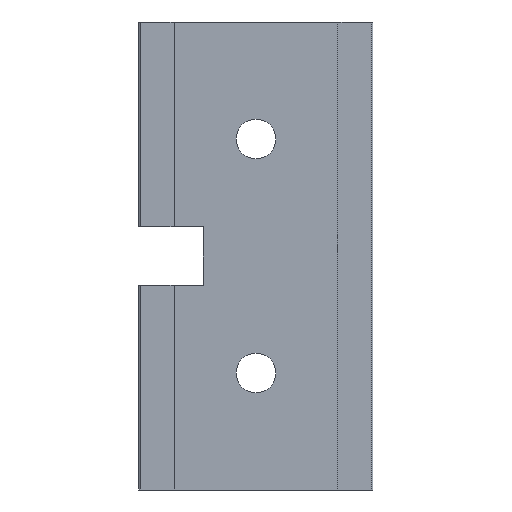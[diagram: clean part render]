
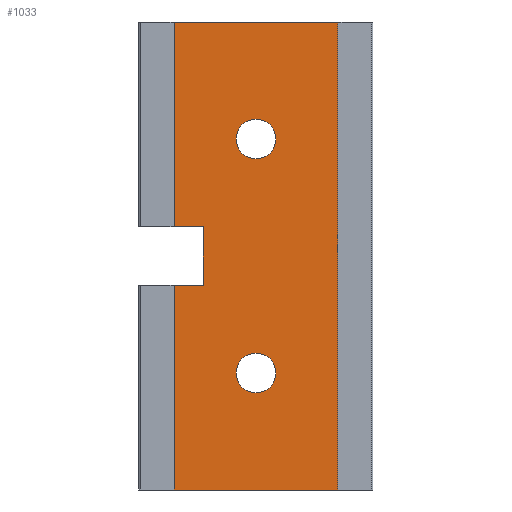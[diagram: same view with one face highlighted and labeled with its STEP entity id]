
A CAD part, front view. The second image highlights one B-rep face of the part: STEP entity #1033.
In plain terms, the highlighted planar face has unit normal (0, -1, 0).
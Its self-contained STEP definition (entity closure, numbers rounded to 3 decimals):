
#20 = CARTESIAN_POINT ( 'NONE',  ( 10., 0.05, 31.7 ) ) ;
#25 = VECTOR ( 'NONE', #695, 1000. ) ;
#32 = CARTESIAN_POINT ( 'NONE',  ( 17., 0.05, 0. ) ) ;
#48 = EDGE_LOOP ( 'NONE', ( #405, #1947 ) ) ;
#64 = CIRCLE ( 'NONE', #220, 1.7 ) ;
#66 = EDGE_CURVE ( 'NONE', #1006, #841, #1513, .T. ) ;
#69 = CARTESIAN_POINT ( 'NONE',  ( 3., 0.05, 22.5 ) ) ;
#80 = DIRECTION ( 'NONE',  ( 0., 1., 0. ) ) ;
#107 = DIRECTION ( 'NONE',  ( 0., 1., 0. ) ) ;
#115 = DIRECTION ( 'NONE',  ( 0., 0., 1. ) ) ;
#116 = CARTESIAN_POINT ( 'NONE',  ( 5.5, 0.05, 17.5 ) ) ;
#128 = ORIENTED_EDGE ( 'NONE', *, *, #1780, .T. ) ;
#134 = DIRECTION ( 'NONE',  ( 1., 0., 0. ) ) ;
#172 = EDGE_CURVE ( 'NONE', #464, #2020, #64, .T. ) ;
#176 = ORIENTED_EDGE ( 'NONE', *, *, #66, .T. ) ;
#177 = VECTOR ( 'NONE', #284, 1000. ) ;
#220 = AXIS2_PLACEMENT_3D ( 'NONE', #511, #2215, #2181 ) ;
#242 = AXIS2_PLACEMENT_3D ( 'NONE', #1440, #370, #1610 ) ;
#244 = ORIENTED_EDGE ( 'NONE', *, *, #555, .F. ) ;
#284 = DIRECTION ( 'NONE',  ( 0., 0., -1. ) ) ;
#303 = VECTOR ( 'NONE', #115, 1000. ) ;
#361 = CARTESIAN_POINT ( 'NONE',  ( 17., 0.05, 40. ) ) ;
#370 = DIRECTION ( 'NONE',  ( 0., 1., 0. ) ) ;
#405 = ORIENTED_EDGE ( 'NONE', *, *, #172, .T. ) ;
#418 = FACE_BOUND ( 'NONE', #48, .T. ) ;
#419 = LINE ( 'NONE', #1849, #2241 ) ;
#420 = ORIENTED_EDGE ( 'NONE', *, *, #1432, .T. ) ;
#426 = VECTOR ( 'NONE', #1667, 1000. ) ;
#434 = VERTEX_POINT ( 'NONE', #624 ) ;
#464 = VERTEX_POINT ( 'NONE', #931 ) ;
#480 = CARTESIAN_POINT ( 'NONE',  ( 5.5, 0.05, 40. ) ) ;
#495 = CARTESIAN_POINT ( 'NONE',  ( 17., 0.05, 0. ) ) ;
#503 = VERTEX_POINT ( 'NONE', #69 ) ;
#509 = EDGE_CURVE ( 'NONE', #503, #1195, #1845, .T. ) ;
#511 = CARTESIAN_POINT ( 'NONE',  ( 10., 0.05, 10. ) ) ;
#521 = CARTESIAN_POINT ( 'NONE',  ( 3., 0.05, 40. ) ) ;
#555 = EDGE_CURVE ( 'NONE', #1821, #1195, #2251, .T. ) ;
#578 = VECTOR ( 'NONE', #134, 1000. ) ;
#579 = CARTESIAN_POINT ( 'NONE',  ( 10., 0.05, 10. ) ) ;
#603 = ORIENTED_EDGE ( 'NONE', *, *, #509, .T. ) ;
#624 = CARTESIAN_POINT ( 'NONE',  ( 3., 0.05, 40. ) ) ;
#626 = ORIENTED_EDGE ( 'NONE', *, *, #660, .T. ) ;
#660 = EDGE_CURVE ( 'NONE', #434, #503, #1456, .T. ) ;
#661 = LINE ( 'NONE', #1538, #177 ) ;
#695 = DIRECTION ( 'NONE',  ( 0., 0., -1. ) ) ;
#700 = EDGE_LOOP ( 'NONE', ( #420, #128 ) ) ;
#722 = DIRECTION ( 'NONE',  ( -1., 0., 0. ) ) ;
#754 = DIRECTION ( 'NONE',  ( -1., 0., 0. ) ) ;
#770 = LINE ( 'NONE', #934, #1658 ) ;
#789 = PLANE ( 'NONE',  #2008 ) ;
#791 = VERTEX_POINT ( 'NONE', #20 ) ;
#795 = ORIENTED_EDGE ( 'NONE', *, *, #1176, .F. ) ;
#841 = VERTEX_POINT ( 'NONE', #32 ) ;
#847 = EDGE_CURVE ( 'NONE', #2020, #464, #2070, .T. ) ;
#931 = CARTESIAN_POINT ( 'NONE',  ( 10., 0.05, 11.7 ) ) ;
#934 = CARTESIAN_POINT ( 'NONE',  ( 17., 0.05, 40. ) ) ;
#962 = CARTESIAN_POINT ( 'NONE',  ( 3., 0.05, 0. ) ) ;
#1005 = ORIENTED_EDGE ( 'NONE', *, *, #2131, .T. ) ;
#1006 = VERTEX_POINT ( 'NONE', #962 ) ;
#1033 = ADVANCED_FACE ( 'NONE', ( #1894, #418, #1840 ), #789, .F. ) ;
#1129 = VERTEX_POINT ( 'NONE', #1695 ) ;
#1133 = CARTESIAN_POINT ( 'NONE',  ( 17., 0.05, 22.5 ) ) ;
#1145 = ORIENTED_EDGE ( 'NONE', *, *, #1542, .F. ) ;
#1146 = CARTESIAN_POINT ( 'NONE',  ( 17., 0.05, 40. ) ) ;
#1173 = CARTESIAN_POINT ( 'NONE',  ( 10., 0.05, 30. ) ) ;
#1176 = EDGE_CURVE ( 'NONE', #1443, #841, #661, .T. ) ;
#1195 = VERTEX_POINT ( 'NONE', #1708 ) ;
#1277 = LINE ( 'NONE', #2130, #2150 ) ;
#1335 = DIRECTION ( 'NONE',  ( -1., 0., 0. ) ) ;
#1348 = ORIENTED_EDGE ( 'NONE', *, *, #1672, .T. ) ;
#1361 = VERTEX_POINT ( 'NONE', #1939 ) ;
#1362 = DIRECTION ( 'NONE',  ( -1., 0., 0. ) ) ;
#1408 = AXIS2_PLACEMENT_3D ( 'NONE', #1173, #107, #1362 ) ;
#1432 = EDGE_CURVE ( 'NONE', #791, #1361, #1890, .T. ) ;
#1440 = CARTESIAN_POINT ( 'NONE',  ( 10., 0.05, 30. ) ) ;
#1443 = VERTEX_POINT ( 'NONE', #361 ) ;
#1456 = LINE ( 'NONE', #521, #25 ) ;
#1513 = LINE ( 'NONE', #495, #578 ) ;
#1538 = CARTESIAN_POINT ( 'NONE',  ( 17., 0.05, 40. ) ) ;
#1542 = EDGE_CURVE ( 'NONE', #434, #1443, #770, .T. ) ;
#1610 = DIRECTION ( 'NONE',  ( -1., 0., 0. ) ) ;
#1658 = VECTOR ( 'NONE', #2161, 1000. ) ;
#1667 = DIRECTION ( 'NONE',  ( 1., 0., 0. ) ) ;
#1672 = EDGE_CURVE ( 'NONE', #1129, #1006, #419, .T. ) ;
#1695 = CARTESIAN_POINT ( 'NONE',  ( 3., 0.05, 17.5 ) ) ;
#1708 = CARTESIAN_POINT ( 'NONE',  ( 5.5, 0.05, 22.5 ) ) ;
#1753 = CARTESIAN_POINT ( 'NONE',  ( 10., 0.05, 8.3 ) ) ;
#1780 = EDGE_CURVE ( 'NONE', #1361, #791, #2078, .T. ) ;
#1821 = VERTEX_POINT ( 'NONE', #116 ) ;
#1826 = DIRECTION ( 'NONE',  ( 0., 1., 0. ) ) ;
#1840 = FACE_OUTER_BOUND ( 'NONE', #2099, .T. ) ;
#1845 = LINE ( 'NONE', #1133, #426 ) ;
#1849 = CARTESIAN_POINT ( 'NONE',  ( 3., 0.05, 40. ) ) ;
#1890 = CIRCLE ( 'NONE', #242, 1.7 ) ;
#1894 = FACE_BOUND ( 'NONE', #700, .T. ) ;
#1939 = CARTESIAN_POINT ( 'NONE',  ( 10., 0.05, 28.3 ) ) ;
#1947 = ORIENTED_EDGE ( 'NONE', *, *, #847, .T. ) ;
#2008 = AXIS2_PLACEMENT_3D ( 'NONE', #1146, #80, #1335 ) ;
#2020 = VERTEX_POINT ( 'NONE', #1753 ) ;
#2023 = DIRECTION ( 'NONE',  ( 0., 0., -1. ) ) ;
#2048 = AXIS2_PLACEMENT_3D ( 'NONE', #579, #1826, #754 ) ;
#2070 = CIRCLE ( 'NONE', #2048, 1.7 ) ;
#2078 = CIRCLE ( 'NONE', #1408, 1.7 ) ;
#2099 = EDGE_LOOP ( 'NONE', ( #244, #1005, #1348, #176, #795, #1145, #626, #603 ) ) ;
#2130 = CARTESIAN_POINT ( 'NONE',  ( 17., 0.05, 17.5 ) ) ;
#2131 = EDGE_CURVE ( 'NONE', #1821, #1129, #1277, .T. ) ;
#2150 = VECTOR ( 'NONE', #722, 1000. ) ;
#2161 = DIRECTION ( 'NONE',  ( 1., 0., 0. ) ) ;
#2181 = DIRECTION ( 'NONE',  ( -1., 0., 0. ) ) ;
#2215 = DIRECTION ( 'NONE',  ( 0., 1., 0. ) ) ;
#2241 = VECTOR ( 'NONE', #2023, 1000. ) ;
#2251 = LINE ( 'NONE', #480, #303 ) ;
